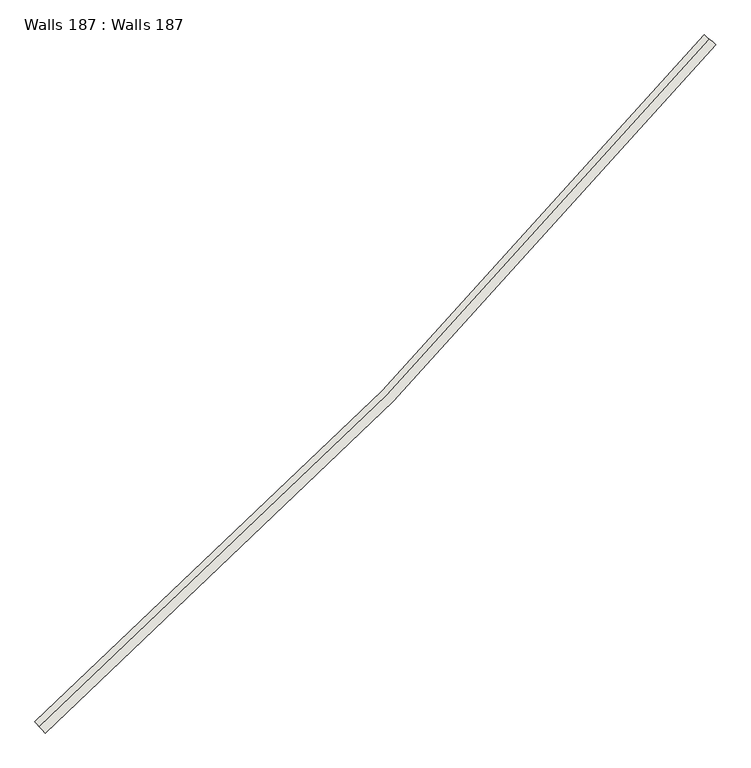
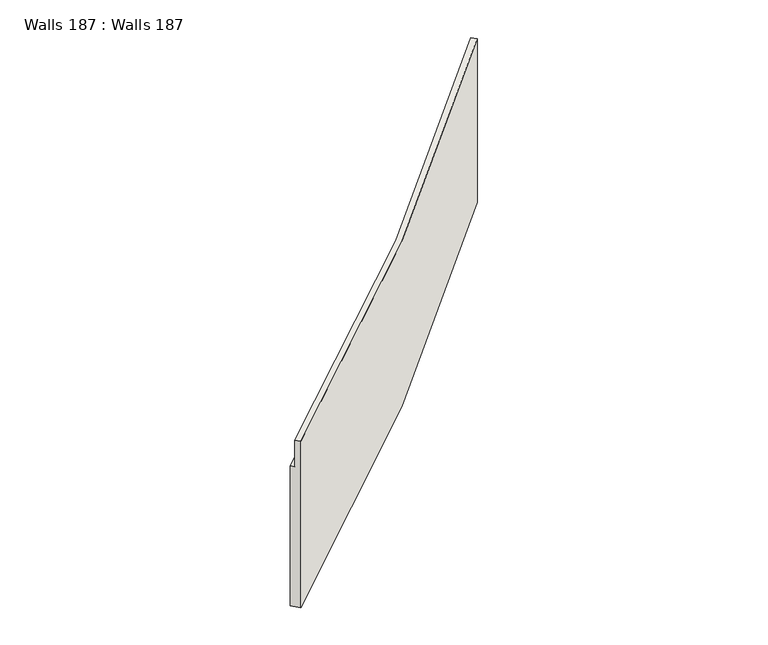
"""IFC4 building model written with IfcOpenShell, lengths in millimetres: wall geometry, Walls 187 : Walls 187."""

from ifc_helpers import new_model, si_unit, frame, origin, place, context, project, spatial, source, transform, mapped, element, save
from ifc_brep_helpers import plane_surface, spline_curve, spline_surface, advanced_brep


def walls_187_walls_187_fa1391d1(model_context):
    return source(origin(), model_context, "Body", "AdvancedBrep", [
        advanced_brep(
        [(364085.3592354, 276138.9943464, 644720.0), (363817.4467385, 276364.2117836, 644720.0), (363817.4467385, 276364.2117836, 649890.0), (363932.2663801, 276267.6900248, 649890.0), (363932.2663801, 276267.6900248, 650890.0), (364085.3592354, 276138.9943464, 650890.0), (348687.3664986, 260342.7414349, 644420.0), (348687.3664986, 260342.7414349, 650690.0), (348554.8043002, 260492.4987839, 650690.0), (348554.8043002, 260492.4987839, 649690.0), (348455.3826514, 260604.8167955, 649690.0), (348455.3826514, 260604.8167955, 644420.0)],
        [
            (0, 1),
            (1, 2),
            (2, 3),
            (3, 4),
            (4, 5),
            (5, 0),
            (6, 7),
            (7, 8),
            (8, 9),
            (9, 10),
            (10, 11),
            (11, 6),
            (11, 1, spline_curve(3, [(348455.3826514, 260604.8167955, 644420.0), (351204.412041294, 263038.202415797, 644470.000000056), (353863.854210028, 265572.79460379, 644519.999999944), (358989.166745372, 270830.67038501, 644620.000000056), (361455.037114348, 273553.953977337, 644669.999999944), (363817.4467385, 276364.2117836, 644720.0)], [4, 2, 4], [0.0, 36.17672944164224, 72.35345888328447])),
            (0, 6, spline_curve(3, [(364085.3592354, 276138.9943464, 644720.0), (361717.424431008, 273322.16393505, 644669.999999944), (359245.786907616, 270592.511152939, 644620.000000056), (354108.487338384, 265322.338303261, 644519.999999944), (351442.825292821, 262781.818234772, 644470.000000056), (348687.3664986, 260342.7414349, 644420.0)], [4, 2, 4], [0.0, 36.17672944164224, 72.35345888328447])),
            (10, 2, spline_curve(3, [(348455.3826514, 260604.8167955, 649690.0), (351204.412041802, 263038.202415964, 649723.333332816), (353863.854209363, 265572.794604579, 649756.666667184), (358989.166746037, 270830.670384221, 649823.333332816), (361455.037115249, 273553.953976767, 649856.666667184), (363817.4467385, 276364.2117836, 649890.0)], [4, 2, 4], [0.0, 36.13345779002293, 72.26691558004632])),
            (9, 3, spline_curve(3, [(348554.8043002, 260492.4987839, 649690.0), (351306.589149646, 262928.323481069, 649723.333333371), (353968.696978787, 265465.456189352, 649756.666666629), (359099.146815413, 270728.602142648, 649823.333333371), (361567.488821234, 273454.615388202, 649856.666666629), (363932.2663801, 276267.6900248, 649890.0)], [4, 2, 4], [0.0, 36.150727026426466, 72.30145405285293])),
            (8, 4, spline_curve(3, [(348554.8043002, 260492.4987839, 650690.0), (351306.589149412, 262928.323481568, 650723.33333374), (353968.69697923, 265465.456189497, 650756.66666626), (359099.14681497, 270728.602142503, 650823.33333374), (361567.488821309, 273454.61538748, 650856.66666626), (363932.2663801, 276267.6900248, 650890.0)], [4, 2, 4], [0.0, 36.16883409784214, 72.33766819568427])),
            (7, 5, spline_curve(3, [(348687.3664986, 260342.7414349, 650690.0), (351442.82529338, 262781.818235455, 650723.333333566), (354108.487338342, 265322.338303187, 650756.666666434), (359245.786907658, 270592.511153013, 650823.333333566), (361717.42442992, 273322.163935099, 650856.666666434), (364085.3592354, 276138.9943464, 650890.0)], [4, 2, 4], [0.0, 36.1929768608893, 72.38595372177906])),
        ],
        [
            plane_surface(frame((363945.024118, 276256.9653849, 648500.0), z_axis=(0.6434783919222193, 0.7654642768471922, 0.0), x_axis=(-0.7654642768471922, 0.6434783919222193, 0.0))),
            plane_surface(frame((348565.8511501, 260480.0190048, 648266.6666667), z_axis=(-0.7487867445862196, -0.6628109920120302, 0.0), x_axis=(-0.6628109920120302, 0.7487867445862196, 0.0))),
            spline_surface(3, 3, [[(348687.3664986, 260342.7414349, 644420.0), (351442.825292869, 262781.818234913, 644470.0), (354108.487338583, 265322.338302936, 644520.0), (359245.786907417, 270592.511153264, 644620.0), (361717.424430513, 273322.163935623, 644670.0), (364085.3592354, 276138.9943464, 644720.0)], [(348648.702524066, 260386.420661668, 644420.0), (351403.089751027, 262824.548931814, 644470.0), (354067.715150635, 265364.081020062, 644520.0), (359203.01688026, 270632.204358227, 644620.0), (361673.693211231, 273360.7956092, 644670.0), (364040.707152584, 276176.530585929, 644720.0)], [(348610.038549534, 260430.099888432, 644420.0), (351363.354209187, 262867.279628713, 644470.0), (354026.942961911, 265405.823736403, 644520.0), (359160.246853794, 270671.897563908, 644620.0), (361629.961991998, 273399.42728279, 644670.0), (363996.055069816, 276214.066825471, 644720.0)], [(348532.710600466, 260517.458341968, 644420.0), (351283.883125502, 262952.741022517, 644470.0), (353945.398586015, 265489.309170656, 644520.0), (359074.706799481, 270751.283973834, 644620.0), (361542.499553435, 273476.690629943, 644670.0), (363906.750904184, 276289.139304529, 644720.0)], [(348494.046625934, 260561.137568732, 644420.0), (351244.147583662, 262995.471719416, 644470.0), (353904.626397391, 265531.051887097, 644520.0), (359031.936773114, 270790.977179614, 644620.0), (361498.768334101, 273515.322303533, 644670.0), (363862.098821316, 276326.675544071, 644720.0)], [(348455.3826514, 260604.8167955, 644420.0), (351204.41204182, 263038.202416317, 644470.0), (353863.854209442, 265572.794604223, 644520.0), (358989.166745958, 270830.670384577, 644620.0), (361455.03711482, 273553.95397711, 644670.0), (363817.4467385, 276364.2117836, 644720.0)]], [4, 2, 4], [4, 2, 4], [0.0, 0.5741469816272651, 1.1482939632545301], [0.0, 36.17672944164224, 72.35345888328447]),
            spline_surface(3, 3, [[(348455.3826514, 260604.8167955, 644420.0), (351204.41204182, 263038.202416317, 644470.0), (353863.854209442, 265572.794604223, 644520.0), (358989.166745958, 270830.670384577, 644620.0), (361455.03711482, 273553.95397711, 644670.0), (363817.4467385, 276364.2117836, 644720.0)], [(348455.3826514, 260604.8167955, 645298.333333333), (351204.41204182, 263038.202416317, 645345.555555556), (353863.854209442, 265572.794604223, 645392.777777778), (358989.166745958, 270830.670384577, 645487.222222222), (361455.03711482, 273553.95397711, 645534.444444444), (363817.4467385, 276364.2117836, 645581.666666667)], [(348455.3826514, 260604.8167955, 646176.666666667), (351204.41204182, 263038.202416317, 646221.111111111), (353863.854209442, 265572.794604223, 646265.555555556), (358989.166745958, 270830.670384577, 646354.444444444), (361455.03711482, 273553.95397711, 646398.888888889), (363817.4467385, 276364.2117836, 646443.333333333)], [(348455.3826514, 260604.8167955, 647933.333333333), (351204.41204182, 263038.202416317, 647972.222222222), (353863.854209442, 265572.794604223, 648011.111111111), (358989.166745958, 270830.670384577, 648088.888888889), (361455.03711482, 273553.95397711, 648127.777777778), (363817.4467385, 276364.2117836, 648166.666666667)], [(348455.3826514, 260604.8167955, 648811.666666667), (351204.41204182, 263038.202416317, 648847.777777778), (353863.854209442, 265572.794604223, 648883.888888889), (358989.166745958, 270830.670384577, 648956.111111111), (361455.03711482, 273553.95397711, 648992.222222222), (363817.4467385, 276364.2117836, 649028.333333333)], [(348455.3826514, 260604.8167955, 649690.0), (351204.41204182, 263038.202416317, 649723.333333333), (353863.854209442, 265572.794604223, 649756.666666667), (358989.166745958, 270830.670384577, 649823.333333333), (361455.03711482, 273553.95397711, 649856.666666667), (363817.4467385, 276364.2117836, 649890.0)]], [4, 2, 4], [4, 2, 4], [0.0, 8.562992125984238, 17.125984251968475], [0.0, 36.13345779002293, 72.26691558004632]),
            spline_surface(3, 3, [[(348455.3826514, 260604.8167955, 649690.0), (351204.41204182, 263038.202416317, 649723.333333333), (353863.854209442, 265572.794604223, 649756.666666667), (358989.166745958, 270830.670384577, 649823.333333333), (361455.03711482, 273553.95397711, 649856.666666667), (363817.4467385, 276364.2117836, 649890.0)], [(348471.9529262, 260586.097126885, 649690.0), (351221.441559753, 263019.889260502, 649723.333333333), (353881.328004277, 265554.904868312, 649756.666666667), (359007.496757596, 270813.659011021, 649823.333333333), (361473.779065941, 273537.397545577, 649856.666666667), (363836.583345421, 276348.124823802, 649890.0)], [(348488.523201, 260567.377458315, 649690.0), (351238.471077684, 263001.576104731, 649723.333333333), (353898.801799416, 265537.015132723, 649756.666666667), (359025.826768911, 270796.647637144, 649823.333333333), (361492.521017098, 273520.841114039, 649856.666666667), (363855.719952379, 276332.037863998, 649890.0)], [(348521.6637506, 260529.938121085, 649690.0), (351272.530113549, 262964.949793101, 649723.333333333), (353933.749389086, 265501.2356609, 649756.666666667), (359062.486792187, 270762.624890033, 649823.333333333), (361530.004919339, 273487.728250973, 649856.666666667), (363893.993166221, 276299.863944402, 649890.0)], [(348538.2340254, 260511.218452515, 649690.0), (351289.55963148, 262946.63663733, 649723.333333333), (353951.223184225, 265483.345925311, 649756.666666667), (359080.816803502, 270745.613516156, 649823.333333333), (361548.746870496, 273471.171819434, 649856.666666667), (363913.129773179, 276283.776984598, 649890.0)], [(348554.8043002, 260492.4987839, 649690.0), (351306.589149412, 262928.323481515, 649723.333333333), (353968.69697906, 265465.4561894, 649756.666666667), (359099.14681514, 270728.6021426, 649823.333333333), (361567.488821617, 273454.615387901, 649856.666666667), (363932.2663801, 276267.6900248, 649890.0)]], [4, 2, 4], [4, 2, 4], [0.0, 0.2460629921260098, 0.4921259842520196], [0.0, 36.150727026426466, 72.30145405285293]),
            spline_surface(3, 3, [[(348554.8043002, 260492.4987839, 649690.0), (351306.589149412, 262928.323481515, 649723.333333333), (353968.69697906, 265465.4561894, 649756.666666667), (359099.14681514, 270728.6021426, 649823.333333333), (361567.488821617, 273454.615387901, 649856.666666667), (363932.2663801, 276267.6900248, 649890.0)], [(348554.8043002, 260492.4987839, 649856.666666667), (351306.589149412, 262928.323481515, 649890.0), (353968.69697906, 265465.4561894, 649923.333333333), (359099.14681514, 270728.6021426, 649990.0), (361567.488821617, 273454.615387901, 650023.333333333), (363932.2663801, 276267.6900248, 650056.666666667)], [(348554.8043002, 260492.4987839, 650023.333333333), (351306.589149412, 262928.323481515, 650056.666666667), (353968.69697906, 265465.4561894, 650090.0), (359099.14681514, 270728.6021426, 650156.666666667), (361567.488821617, 273454.615387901, 650190.0), (363932.2663801, 276267.6900248, 650223.333333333)], [(348554.8043002, 260492.4987839, 650356.666666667), (351306.589149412, 262928.323481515, 650390.0), (353968.69697906, 265465.4561894, 650423.333333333), (359099.14681514, 270728.6021426, 650490.0), (361567.488821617, 273454.615387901, 650523.333333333), (363932.2663801, 276267.6900248, 650556.666666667)], [(348554.8043002, 260492.4987839, 650523.333333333), (351306.589149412, 262928.323481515, 650556.666666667), (353968.69697906, 265465.4561894, 650590.0), (359099.14681514, 270728.6021426, 650656.666666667), (361567.488821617, 273454.615387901, 650690.0), (363932.2663801, 276267.6900248, 650723.333333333)], [(348554.8043002, 260492.4987839, 650690.0), (351306.589149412, 262928.323481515, 650723.333333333), (353968.69697906, 265465.4561894, 650756.666666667), (359099.14681514, 270728.6021426, 650823.333333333), (361567.488821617, 273454.615387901, 650856.666666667), (363932.2663801, 276267.6900248, 650890.0)]], [4, 2, 4], [4, 2, 4], [0.0, 1.6404199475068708, 3.2808398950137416], [0.0, 36.16883409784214, 72.33766819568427]),
            spline_surface(3, 3, [[(348554.8043002, 260492.4987839, 650690.0), (351306.589149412, 262928.323481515, 650723.333333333), (353968.69697906, 265465.4561894, 650756.666666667), (359099.14681514, 270728.6021426, 650823.333333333), (361567.488821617, 273454.615387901, 650856.666666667), (363932.2663801, 276267.6900248, 650890.0)], [(348576.897999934, 260467.539225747, 650690.0), (351329.295173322, 262903.905940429, 650723.333333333), (353991.995372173, 265441.603208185, 650756.666666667), (359123.586830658, 270705.920311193, 650823.333333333), (361592.478089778, 273432.540145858, 650856.666666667), (363957.781855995, 276246.240745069, 650890.0)], [(348598.991699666, 260442.579667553, 650690.0), (351352.001197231, 262879.488399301, 650723.333333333), (354015.293765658, 265417.750227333, 650756.666666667), (359148.026845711, 270683.23847929, 650823.333333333), (361617.467357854, 273410.464903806, 650856.666666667), (363983.297331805, 276224.791465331, 650890.0)], [(348643.179099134, 260392.660551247, 650690.0), (351397.41324505, 262830.653317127, 650723.333333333), (354061.890551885, 265370.044264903, 650756.666666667), (359196.906876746, 270637.874816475, 650823.333333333), (361667.445894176, 273366.314419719, 650856.666666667), (364034.328283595, 276181.892905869, 650890.0)], [(348665.272798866, 260367.700993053, 650690.0), (351420.119268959, 262806.235775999, 650723.333333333), (354085.18894547, 265346.191284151, 650756.666666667), (359221.346891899, 270615.192984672, 650823.333333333), (361692.435162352, 273344.239177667, 650856.666666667), (364059.843759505, 276160.443626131, 650890.0)], [(348687.3664986, 260342.7414349, 650690.0), (351442.825292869, 262781.818234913, 650723.333333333), (354108.487338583, 265322.338302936, 650756.666666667), (359245.786907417, 270592.511153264, 650823.333333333), (361717.424430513, 273322.163935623, 650856.666666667), (364085.3592354, 276138.9943464, 650890.0)]], [4, 2, 4], [4, 2, 4], [0.0, 0.32808398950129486, 0.6561679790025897], [0.0, 36.1929768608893, 72.38595372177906]),
            spline_surface(3, 3, [[(348687.3664986, 260342.7414349, 650690.0), (351442.825292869, 262781.818234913, 650723.333333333), (354108.487338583, 265322.338302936, 650756.666666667), (359245.786907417, 270592.511153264, 650823.333333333), (361717.424430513, 273322.163935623, 650856.666666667), (364085.3592354, 276138.9943464, 650890.0)], [(348687.3664986, 260342.7414349, 649645.0), (351442.825292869, 262781.818234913, 649681.111111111), (354108.487338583, 265322.338302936, 649717.222222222), (359245.786907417, 270592.511153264, 649789.444444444), (361717.424430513, 273322.163935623, 649825.555555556), (364085.3592354, 276138.9943464, 649861.666666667)], [(348687.3664986, 260342.7414349, 648600.0), (351442.825292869, 262781.818234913, 648638.888888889), (354108.487338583, 265322.338302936, 648677.777777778), (359245.786907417, 270592.511153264, 648755.555555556), (361717.424430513, 273322.163935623, 648794.444444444), (364085.3592354, 276138.9943464, 648833.333333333)], [(348687.3664986, 260342.7414349, 646510.0), (351442.825292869, 262781.818234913, 646554.444444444), (354108.487338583, 265322.338302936, 646598.888888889), (359245.786907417, 270592.511153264, 646687.777777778), (361717.424430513, 273322.163935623, 646732.222222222), (364085.3592354, 276138.9943464, 646776.666666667)], [(348687.3664986, 260342.7414349, 645465.0), (351442.825292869, 262781.818234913, 645512.222222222), (354108.487338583, 265322.338302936, 645559.444444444), (359245.786907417, 270592.511153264, 645653.888888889), (361717.424430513, 273322.163935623, 645701.111111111), (364085.3592354, 276138.9943464, 645748.333333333)], [(348687.3664986, 260342.7414349, 644420.0), (351442.825292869, 262781.818234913, 644470.0), (354108.487338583, 265322.338302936, 644520.0), (359245.786907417, 270592.511153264, 644620.0), (361717.424430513, 273322.163935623, 644670.0), (364085.3592354, 276138.9943464, 644720.0)]], [4, 2, 4], [4, 2, 4], [0.0, 10.203412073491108, 20.406824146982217], [0.0, 36.217955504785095, 72.43591100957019]),
        ],
        [
            (0, [[1, 2, 3, 4, 5, 6]]),
            (1, [[7, 8, 9, 10, 11, 12]]),
            (2, [[-12, 13, -1, 14]]),
            (3, [[-11, 15, -2, -13]]),
            (4, [[-10, 16, -3, -15]]),
            (5, [[-9, 17, -4, -16]]),
            (6, [[-8, 18, -5, -17]]),
            (7, [[-7, -14, -6, -18]]),
        ],
    ),
    ])


if __name__ == "__main__":
    model = new_model("IFC4")
    model_context = context("Model", 3, world=origin())
    ifc_project = project(units=[si_unit("LENGTHUNIT", "METRE", prefix="MILLI")], contexts=[model_context])
    site = spatial("IfcSite", under=ifc_project)
    building = spatial("IfcBuilding", under=site)
    placement = place(None, origin())
    walls_187_walls_187_shape = walls_187_walls_187_fa1391d1(model_context)
    element("IfcWall", 1, ObjectType="Walls 187 : Walls 187", at=placement, inside=building, context=model_context, shape_type="MappedRepresentation", body=[
        mapped(walls_187_walls_187_shape, transform((0.0, 0.0, 0.0), x_axis=(1.0, 0.0, 0.0), y_axis=(0.0, 1.0, 0.0), z_axis=(0.0, 0.0, 1.0))),
    ])
    save(model, "model.ifc")
